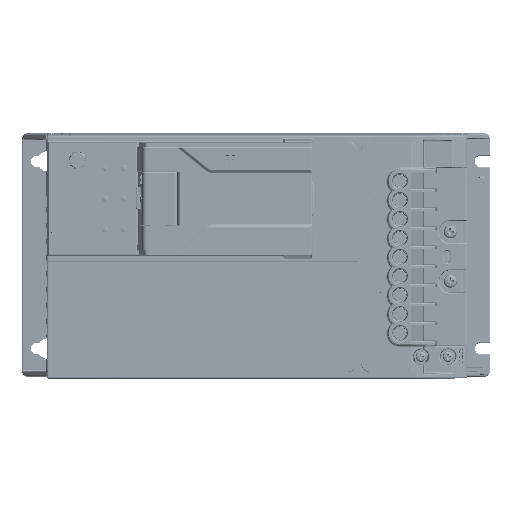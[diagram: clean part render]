
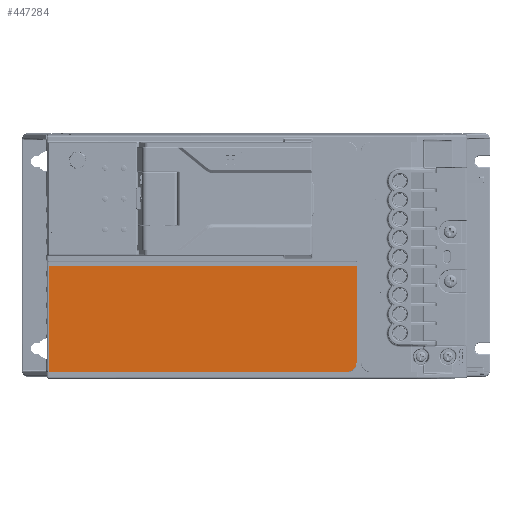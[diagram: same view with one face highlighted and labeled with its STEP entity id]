
A CAD part, left-side view. The second image highlights one B-rep face of the part: STEP entity #447284.
In plain terms, the highlighted planar face has unit normal (-1, 0, -0.008).
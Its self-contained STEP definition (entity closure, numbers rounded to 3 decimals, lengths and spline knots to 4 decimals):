
#349040=CARTESIAN_POINT('',(26.0012,-9.1098,
-1.8854));
#349041=DIRECTION('',(-1.,0.,-0.008));
#349042=DIRECTION('',(0.,-1.,
0.));
#349043=AXIS2_PLACEMENT_3D('',#349040,#349041,#349042);
#349045=CARTESIAN_POINT('',(26.0169,-8.9327,
-3.9103));
#349046=DIRECTION('',(-1.,0.,-0.008));
#349047=DIRECTION('',(0.008,0.,-1.));
#349048=AXIS2_PLACEMENT_3D('',#349045,#349046,#349047);
#349063=DIRECTION('',(0.008,0.,-1.));
#349064=VECTOR('',#349063,2.2178);
#349065=CARTESIAN_POINT('',(26.0011,-2.6409,
-1.8775));
#349066=LINE('',#349065,#349064);
#349079=DIRECTION('',(0.,1.,0.));
#349080=VECTOR('',#349079,6.4688);
#349081=CARTESIAN_POINT('',(26.0011,-9.1098,
-1.8775));
#349082=LINE('',#349081,#349080);
#349107=DIRECTION('',(-0.008,0.,1.));
#349108=VECTOR('',#349107,2.0249);
#349109=CARTESIAN_POINT('',(26.0169,-9.1177,
-3.9103));
#349110=LINE('',#349109,#349108);
#349116=DIRECTION('',(0.,-1.,0.));
#349117=VECTOR('',#349116,6.2917);
#349118=CARTESIAN_POINT('',(26.0183,-2.6409,
-4.0953));
#349119=LINE('',#349118,#349117);
#394499=CARTESIAN_POINT('',(26.0183,-8.9326,
-4.0953));
#394500=CARTESIAN_POINT('',(26.0169,-9.1177,
-3.9103));
#394501=VERTEX_POINT('',#394499);
#394502=VERTEX_POINT('',#394500);
#394503=CARTESIAN_POINT('',(26.0011,-2.6409,
-1.8775));
#394504=CARTESIAN_POINT('',(26.0183,-2.6409,
-4.0953));
#394505=VERTEX_POINT('',#394503);
#394506=VERTEX_POINT('',#394504);
#394507=CARTESIAN_POINT('',(26.0011,-9.1098,
-1.8775));
#394508=VERTEX_POINT('',#394507);
#394509=CARTESIAN_POINT('',(26.0012,-9.1177,
-1.8854));
#394510=VERTEX_POINT('',#394509);
#447266=CARTESIAN_POINT('',(26.0097,-5.8793,
-2.9864));
#447267=DIRECTION('',(1.,0.,0.008));
#447268=DIRECTION('',(-0.008,0.,1.));
#447269=AXIS2_PLACEMENT_3D('',#447266,#447267,#447268);
#447270=PLANE('',#447269);
#447272=ORIENTED_EDGE('',*,*,#447271,.F.);
#447274=ORIENTED_EDGE('',*,*,#447273,.F.);
#447276=ORIENTED_EDGE('',*,*,#447275,.F.);
#447278=ORIENTED_EDGE('',*,*,#447277,.F.);
#447279=ORIENTED_EDGE('',*,*,#447256,.F.);
#447281=ORIENTED_EDGE('',*,*,#447280,.F.);
#447282=EDGE_LOOP('',(#447272,#447274,#447276,#447278,#447279,#447281));
#447283=FACE_OUTER_BOUND('',#447282,.F.);
#447284=ADVANCED_FACE('',(#447283),#447270,.F.);
#349044=CIRCLE('',#349043,0.0079);
#349049=CIRCLE('',#349048,0.185);
#447256=EDGE_CURVE('',#394501,#394502,#349049,.T.);
#447271=EDGE_CURVE('',#394505,#394506,#349066,.T.);
#447273=EDGE_CURVE('',#394508,#394505,#349082,.T.);
#447275=EDGE_CURVE('',#394510,#394508,#349044,.T.);
#447277=EDGE_CURVE('',#394502,#394510,#349110,.T.);
#447280=EDGE_CURVE('',#394506,#394501,#349119,.T.);
